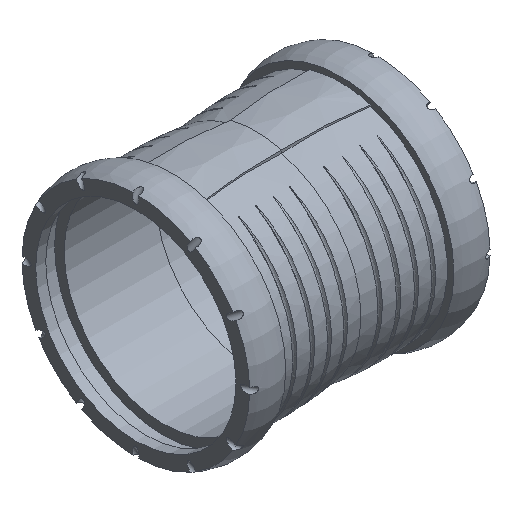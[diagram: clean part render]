
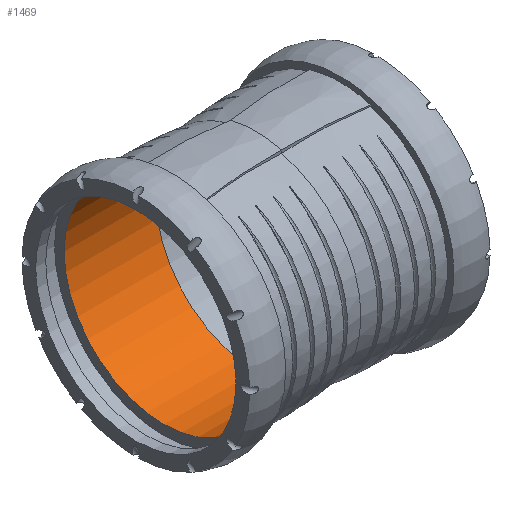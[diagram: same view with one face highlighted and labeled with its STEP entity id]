
A CAD part, isometric view. The second image highlights one B-rep face of the part: STEP entity #1469.
In plain terms, the highlighted cylindrical face has radius 63 mm (diameter 126 mm), a full revolution.
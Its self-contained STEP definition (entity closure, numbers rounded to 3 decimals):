
#68=CYLINDRICAL_SURFACE('',#1598,63.);
#178=FACE_OUTER_BOUND('',#469,.T.);
#350=FACE_BOUND('',#470,.T.);
#469=EDGE_LOOP('',(#1276));
#470=EDGE_LOOP('',(#1277));
#502=CIRCLE('',#1539,63.);
#530=CIRCLE('',#1597,63.);
#606=VERTEX_POINT('',#4499);
#680=VERTEX_POINT('',#7141);
#782=EDGE_CURVE('',#606,#606,#502,.T.);
#882=EDGE_CURVE('',#680,#680,#530,.T.);
#1276=ORIENTED_EDGE('',*,*,#782,.F.);
#1277=ORIENTED_EDGE('',*,*,#882,.T.);
#1469=ADVANCED_FACE('',(#178,#350),#68,.F.);
#1539=AXIS2_PLACEMENT_3D('',#4500,#1728,#1729);
#1597=AXIS2_PLACEMENT_3D('',#7142,#1844,#1845);
#1598=AXIS2_PLACEMENT_3D('',#7143,#1846,#1847);
#1728=DIRECTION('center_axis',(-1.,0.,0.));
#1729=DIRECTION('ref_axis',(0.,0.,
1.));
#1844=DIRECTION('center_axis',(-1.,0.,0.));
#1845=DIRECTION('ref_axis',(0.,0.,
-1.));
#1846=DIRECTION('center_axis',(-1.,0.,0.));
#1847=DIRECTION('ref_axis',(0.,-1.,0.));
#4499=CARTESIAN_POINT('',(0.,0.,
-63.));
#4500=CARTESIAN_POINT('Origin',(0.,0.,
0.));
#7141=CARTESIAN_POINT('',(-58.05,-63.,0.));
#7142=CARTESIAN_POINT('Origin',(-58.05,0.,
0.));
#7143=CARTESIAN_POINT('Origin',(-31.925,0.,
0.));
